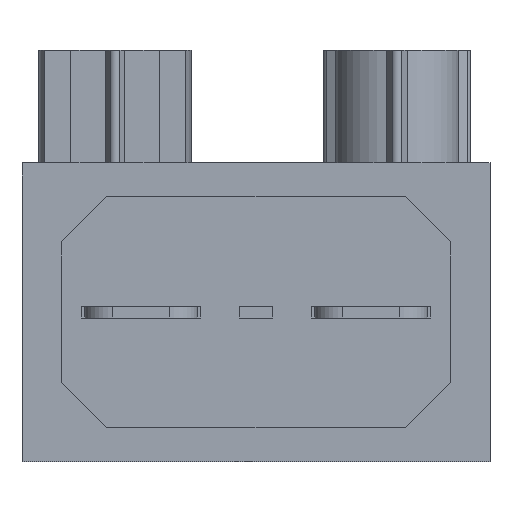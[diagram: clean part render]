
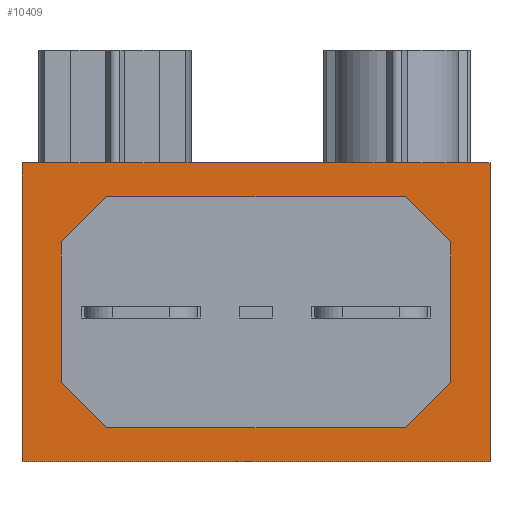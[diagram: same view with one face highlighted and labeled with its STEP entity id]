
A CAD part, front view. The second image highlights one B-rep face of the part: STEP entity #10409.
In plain terms, the highlighted planar face has unit normal (0, -1, 0).
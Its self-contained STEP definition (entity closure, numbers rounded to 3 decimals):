
#18 = EDGE_CURVE ( 'NONE', #5562, #11007, #572, .T. ) ;
#26 = VERTEX_POINT ( 'NONE', #596 ) ;
#231 = EDGE_LOOP ( 'NONE', ( #10812, #11028, #10616, #10739, #10787, #10924, #11087, #6010 ) ) ;
#294 = EDGE_LOOP ( 'NONE', ( #357, #502, #796, #1254 ) ) ;
#357 = ORIENTED_EDGE ( 'NONE', *, *, #411, .T. ) ;
#411 = EDGE_CURVE ( 'NONE', #26, #2850, #2260, .T. ) ;
#502 = ORIENTED_EDGE ( 'NONE', *, *, #10378, .F. ) ;
#572 = LINE ( 'NONE', #573, #574 ) ;
#573 = CARTESIAN_POINT ( 'NONE',  ( 5.65, -3.5, -3.776 ) ) ;
#574 = VECTOR ( 'NONE', #575, 1000. ) ;
#575 = DIRECTION ( 'NONE',  ( 0., 0., 1. ) ) ;
#596 = CARTESIAN_POINT ( 'NONE',  ( -1.65, -3.5, -5.3 ) ) ;
#796 = ORIENTED_EDGE ( 'NONE', *, *, #10837, .F. ) ;
#1254 = ORIENTED_EDGE ( 'NONE', *, *, #1350, .T. ) ;
#1350 = EDGE_CURVE ( 'NONE', #10751, #26, #4333, .T. ) ;
#2260 = LINE ( 'NONE', #2261, #2262 ) ;
#2261 = CARTESIAN_POINT ( 'NONE',  ( 6.65, -3.5, -5.3 ) ) ;
#2262 = VECTOR ( 'NONE', #2263, 1000. ) ;
#2263 = DIRECTION ( 'NONE',  ( 1., 0., 0. ) ) ;
#2850 = VERTEX_POINT ( 'NONE', #5267 ) ;
#4333 = LINE ( 'NONE', #4334, #4335 ) ;
#4334 = CARTESIAN_POINT ( 'NONE',  ( -1.65, -3.5, 0. ) ) ;
#4335 = VECTOR ( 'NONE', #4336, 1000. ) ;
#4336 = DIRECTION ( 'NONE',  ( 0., 0., -1. ) ) ;
#4447 = LINE ( 'NONE', #4448, #4449 ) ;
#4448 = CARTESIAN_POINT ( 'NONE',  ( 6.65, -3.5, 0. ) ) ;
#4449 = VECTOR ( 'NONE', #4450, 1000. ) ;
#4450 = DIRECTION ( 'NONE',  ( 0., 0., -1. ) ) ;
#4649 = FACE_OUTER_BOUND ( 'NONE', #294, .T. ) ;
#4650 = FACE_BOUND ( 'NONE', #231, .T. ) ;
#4651 = PLANE ( 'NONE',  #4652 ) ;
#4652 = AXIS2_PLACEMENT_3D ( 'NONE', #4653, #4654, #4655 ) ;
#4653 = CARTESIAN_POINT ( 'NONE',  ( 6.65, -3.5, 0. ) ) ;
#4654 = DIRECTION ( 'NONE',  ( 0., 1., 0. ) ) ;
#4655 = DIRECTION ( 'NONE',  ( -1., 0., 0. ) ) ;
#5267 = CARTESIAN_POINT ( 'NONE',  ( 6.65, -3.5, -5.3 ) ) ;
#5562 = VERTEX_POINT ( 'NONE', #8690 ) ;
#6010 = ORIENTED_EDGE ( 'NONE', *, *, #6322, .F. ) ;
#6176 = LINE ( 'NONE', #6177, #6178 ) ;
#6177 = CARTESIAN_POINT ( 'NONE',  ( -0.65, -3.5, -1.524 ) ) ;
#6178 = VECTOR ( 'NONE', #6179, 1000. ) ;
#6179 = DIRECTION ( 'NONE',  ( 0., 0., -1. ) ) ;
#6322 = EDGE_CURVE ( 'NONE', #10939, #5562, #9297, .T. ) ;
#6360 = CARTESIAN_POINT ( 'NONE',  ( -0.65, -3.5, -1.524 ) ) ;
#7799 = CARTESIAN_POINT ( 'NONE',  ( -1.65, -3.5, 0. ) ) ;
#8175 = LINE ( 'NONE', #8176, #8177 ) ;
#8176 = CARTESIAN_POINT ( 'NONE',  ( -0.026, -3.5, -0.9 ) ) ;
#8177 = VECTOR ( 'NONE', #8178, 1000. ) ;
#8178 = DIRECTION ( 'NONE',  ( -0.707, 0., -0.707 ) ) ;
#8336 = LINE ( 'NONE', #8337, #8338 ) ;
#8337 = CARTESIAN_POINT ( 'NONE',  ( 5.026, -3.5, -0.9 ) ) ;
#8338 = VECTOR ( 'NONE', #8339, 1000. ) ;
#8339 = DIRECTION ( 'NONE',  ( -1., 0., 0. ) ) ;
#8340 = CARTESIAN_POINT ( 'NONE',  ( -0.026, -3.5, -0.9 ) ) ;
#8420 = LINE ( 'NONE', #8421, #8422 ) ;
#8421 = CARTESIAN_POINT ( 'NONE',  ( 6.65, -3.5, 0. ) ) ;
#8422 = VECTOR ( 'NONE', #8423, 1000. ) ;
#8423 = DIRECTION ( 'NONE',  ( 1., 0., 0. ) ) ;
#8504 = CARTESIAN_POINT ( 'NONE',  ( 5.026, -3.5, -0.9 ) ) ;
#8518 = LINE ( 'NONE', #8519, #8520 ) ;
#8519 = CARTESIAN_POINT ( 'NONE',  ( -0.026, -3.5, -4.4 ) ) ;
#8520 = VECTOR ( 'NONE', #8521, 1000. ) ;
#8521 = DIRECTION ( 'NONE',  ( 1., 0., 0. ) ) ;
#8551 = CARTESIAN_POINT ( 'NONE',  ( 6.65, -3.5, 0. ) ) ;
#8690 = CARTESIAN_POINT ( 'NONE',  ( 5.65, -3.5, -3.776 ) ) ;
#8698 = CARTESIAN_POINT ( 'NONE',  ( -0.026, -3.5, -4.4 ) ) ;
#8850 = CARTESIAN_POINT ( 'NONE',  ( 5.026, -3.5, -4.4 ) ) ;
#9114 = LINE ( 'NONE', #9115, #9116 ) ;
#9115 = CARTESIAN_POINT ( 'NONE',  ( 5.65, -3.5, -1.524 ) ) ;
#9116 = VECTOR ( 'NONE', #9117, 1000. ) ;
#9117 = DIRECTION ( 'NONE',  ( -0.707, 0., 0.707 ) ) ;
#9267 = CARTESIAN_POINT ( 'NONE',  ( 5.65, -3.5, -1.524 ) ) ;
#9297 = LINE ( 'NONE', #9298, #9299 ) ;
#9298 = CARTESIAN_POINT ( 'NONE',  ( 5.026, -3.5, -4.4 ) ) ;
#9299 = VECTOR ( 'NONE', #9300, 1000. ) ;
#9300 = DIRECTION ( 'NONE',  ( 0.707, 0., 0.707 ) ) ;
#9755 = LINE ( 'NONE', #9756, #9757 ) ;
#9756 = CARTESIAN_POINT ( 'NONE',  ( -0.65, -3.5, -3.776 ) ) ;
#9757 = VECTOR ( 'NONE', #9758, 1000. ) ;
#9758 = DIRECTION ( 'NONE',  ( 0.707, 0., -0.707 ) ) ;
#9856 = CARTESIAN_POINT ( 'NONE',  ( -0.65, -3.5, -3.776 ) ) ;
#10378 = EDGE_CURVE ( 'NONE', #10873, #2850, #4447, .T. ) ;
#10409 = ADVANCED_FACE ( 'NONE', ( #4649, #4650 ), #4651, .F. ) ;
#10616 = ORIENTED_EDGE ( 'NONE', *, *, #10659, .F. ) ;
#10659 = EDGE_CURVE ( 'NONE', #10685, #11127, #6176, .T. ) ;
#10685 = VERTEX_POINT ( 'NONE', #6360 ) ;
#10739 = ORIENTED_EDGE ( 'NONE', *, *, #10790, .F. ) ;
#10751 = VERTEX_POINT ( 'NONE', #7799 ) ;
#10787 = ORIENTED_EDGE ( 'NONE', *, *, #10818, .F. ) ;
#10790 = EDGE_CURVE ( 'NONE', #10819, #10685, #8175, .T. ) ;
#10812 = ORIENTED_EDGE ( 'NONE', *, *, #10868, .F. ) ;
#10818 = EDGE_CURVE ( 'NONE', #10860, #10819, #8336, .T. ) ;
#10819 = VERTEX_POINT ( 'NONE', #8340 ) ;
#10837 = EDGE_CURVE ( 'NONE', #10751, #10873, #8420, .T. ) ;
#10860 = VERTEX_POINT ( 'NONE', #8504 ) ;
#10868 = EDGE_CURVE ( 'NONE', #10904, #10939, #8518, .T. ) ;
#10873 = VERTEX_POINT ( 'NONE', #8551 ) ;
#10904 = VERTEX_POINT ( 'NONE', #8698 ) ;
#10924 = ORIENTED_EDGE ( 'NONE', *, *, #10974, .F. ) ;
#10939 = VERTEX_POINT ( 'NONE', #8850 ) ;
#10974 = EDGE_CURVE ( 'NONE', #11007, #10860, #9114, .T. ) ;
#11007 = VERTEX_POINT ( 'NONE', #9267 ) ;
#11028 = ORIENTED_EDGE ( 'NONE', *, *, #11083, .F. ) ;
#11083 = EDGE_CURVE ( 'NONE', #11127, #10904, #9755, .T. ) ;
#11087 = ORIENTED_EDGE ( 'NONE', *, *, #18, .F. ) ;
#11127 = VERTEX_POINT ( 'NONE', #9856 ) ;
